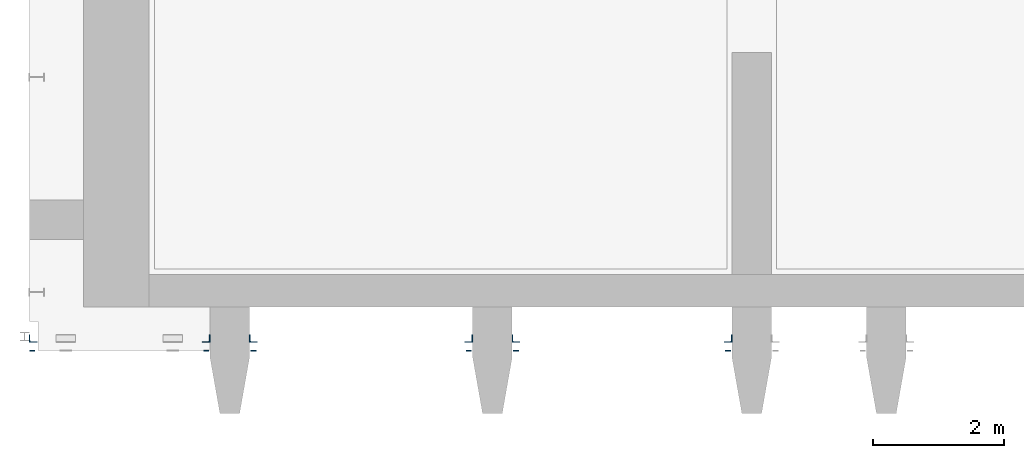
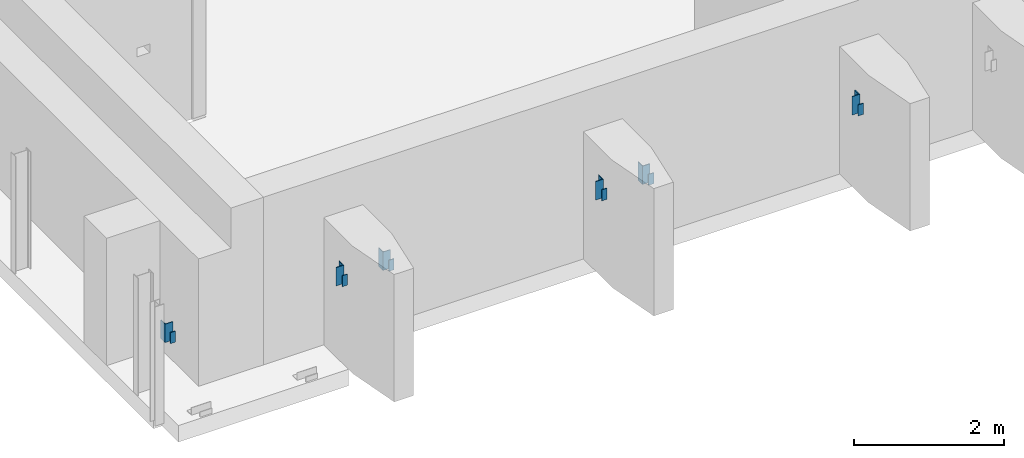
# One storey, part 3 of 22: 12 columns.
"""IFC2X3 building model written with IfcOpenShell, lengths in millimetres."""

from ifc_helpers import new_model, entity, si_unit, converted_unit, derived_unit, direction, frame, frame_2d, origin, place, context, subcontext, project, spatial, polyline, circle_curve, parameter, trimmed, segment, composite_curve, rectangle, outline, extrude, source, transform, mapped, material, type_object, type_shapes, element, save


model = new_model("IFC2X3")

# Units and contexts
model_context = context("Model", 3, precision=0.01, world=origin(), true_north=direction((6.12303176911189e-17, 1.0)))
body_context = subcontext(model_context, "Body", "Model", "MODEL_VIEW")
ifc_project = project(units=[si_unit("LENGTHUNIT", "METRE", prefix="MILLI"), si_unit("AREAUNIT", "SQUARE_METRE"), si_unit("VOLUMEUNIT", "CUBIC_METRE"), converted_unit("PLANEANGLEUNIT", "DEGREE", entity("IfcRatioMeasure", 0.0174532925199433), si_unit("PLANEANGLEUNIT", "RADIAN"), dimensions=[0, 0, 0, 0, 0, 0, 0]), si_unit("MASSUNIT", "GRAM", prefix="KILO"), derived_unit("MASSDENSITYUNIT", [(si_unit("MASSUNIT", "GRAM", prefix="KILO"), 1), (si_unit("LENGTHUNIT", "METRE"), -3)]), si_unit("TIMEUNIT", "SECOND"), si_unit("FREQUENCYUNIT", "HERTZ"), si_unit("THERMODYNAMICTEMPERATUREUNIT", "DEGREE_CELSIUS"), derived_unit("THERMALTRANSMITTANCEUNIT", [(si_unit("MASSUNIT", "GRAM", prefix="KILO"), 1), (si_unit("THERMODYNAMICTEMPERATUREUNIT", "KELVIN"), -1), (si_unit("TIMEUNIT", "SECOND"), -3)]), derived_unit("VOLUMETRICFLOWRATEUNIT", [(si_unit("LENGTHUNIT", "METRE"), 3), (si_unit("TIMEUNIT", "SECOND"), -1)]), si_unit("ELECTRICCURRENTUNIT", "AMPERE"), si_unit("ELECTRICVOLTAGEUNIT", "VOLT"), si_unit("POWERUNIT", "WATT"), si_unit("FORCEUNIT", "NEWTON", prefix="KILO"), si_unit("ILLUMINANCEUNIT", "LUX"), si_unit("LUMINOUSFLUXUNIT", "LUMEN"), si_unit("LUMINOUSINTENSITYUNIT", "CANDELA"), derived_unit("USERDEFINED", [(si_unit("MASSUNIT", "GRAM", prefix="KILO"), -1), (si_unit("LENGTHUNIT", "METRE"), -2), (si_unit("TIMEUNIT", "SECOND"), 3), (si_unit("LUMINOUSFLUXUNIT", "LUMEN"), 1)]), derived_unit("LINEARVELOCITYUNIT", [(si_unit("LENGTHUNIT", "METRE"), 1), (si_unit("TIMEUNIT", "SECOND"), -1)]), si_unit("PRESSUREUNIT", "PASCAL"), derived_unit("USERDEFINED", [(si_unit("LENGTHUNIT", "METRE"), -2), (si_unit("MASSUNIT", "GRAM", prefix="KILO"), 1), (si_unit("TIMEUNIT", "SECOND"), -2)])], contexts=[model_context])

# Site, building, storey
site_placement = place(None, origin())
site = spatial("IfcSite", under=ifc_project, at=site_placement, Name="Default", CompositionType="ELEMENT")
building_placement = place(site_placement, origin())
building = spatial("IfcBuilding", under=site, at=building_placement, Name="niet gebruiken", CompositionType="ELEMENT")
storey_placement = place(building_placement, frame((0.0, 0.0, 15000.0)))
storey = spatial("IfcBuildingStorey", under=building, at=storey_placement, Name="04 vierde verdieping", CompositionType="ELEMENT", Elevation=15000.0)

# Columns
ifc_material = material(Name="NLRS_h2_staal")
column_type_1 = type_object("IfcColumnType", Name="kolomgelijzijdig hoekprofiel LEQU_120x120x12_!", PredefinedType="COLUMN", material=ifc_material)
shared_shape_1 = source(origin(), body_context, "Body", "SweptSolid", [
    extrude(outline(composite_curve([segment(polyline([(-74.6666666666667, -45.3333333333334), (45.3333333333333, -45.3333333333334)]), True, "CONTINUOUS"), segment(polyline([(45.3333333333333, -45.3333333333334), (45.3333333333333, 74.6666666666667)]), True, "CONTINUOUS"), segment(polyline([(45.3333333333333, 74.6666666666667), (41.3333333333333, 74.6666666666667)]), True, "CONTINUOUS"), segment(trimmed(circle_curve(frame_2d((41.3333333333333, 66.6666666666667), x_axis=(0.0, 1.0)), 8.0), [parameter(0.0)], [parameter(90.0)], True, "PARAMETER"), True, "CONTINUOUS"), segment(polyline([(33.3333333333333, 66.6666666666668), (33.3333333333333, -17.3333333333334)]), True, "CONTINUOUS"), segment(trimmed(circle_curve(frame_2d((17.3333333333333, -17.3333333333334), x_axis=(1.0, 0.0)), 16.0), [parameter(270.0)], [parameter(0.0)], True, "PARAMETER"), False, "CONTINUOUS"), segment(polyline([(17.3333333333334, -33.3333333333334), (-66.6666666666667, -33.3333333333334)]), True, "CONTINUOUS"), segment(trimmed(circle_curve(frame_2d((-66.6666666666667, -41.3333333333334), x_axis=(0.0, 1.0)), 7.99999999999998), [parameter(0.0)], [parameter(90.0000000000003)], True, "PARAMETER"), True, "CONTINUOUS"), segment(polyline([(-74.6666666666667, -41.3333333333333), (-74.6666666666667, -45.3333333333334)]), True, "CONTINUOUS")], self_intersect=False)), frame((32.8333333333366, 32.8333333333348, 16235.0), z_axis=(0.0, 0.0, 1.0), x_axis=(0.0, -1.0, 0.0)), (0.0, 0.0, 1.0), 300.00000000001),
])
type_shapes(column_type_1, [shared_shape_1])
for number, where, z_axis, x_axis in (
    (1, (131437.5, 1246.49999999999, -15000.0), (0.0, 0.0, 1.0), (0.0, 1.0, 0.0)),
    (2, (135387.5, 1246.5, -15000.0), (0.0, 0.0, 1.0), (0.0, 1.0, 0.0)),
    (3, (127437.5, 1246.50000000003, -15000.0), (0.0, 0.0, 1.0), (0.0, 1.0, 0.0)),
):
    element("IfcColumn", number, at=place(storey_placement, frame(where, z_axis=z_axis, x_axis=x_axis)), inside=storey, type_object=column_type_1, material=ifc_material, Name="NLRS_28.11_SCO_TLB_stalen kolom hoekprofiel gelijkzijdig_gen:kolomgelijzijdig hoekprofiel LEQU_120x120x12_!", ObjectType="kolomgelijzijdig hoekprofiel LEQU_120x120x12_!", context=body_context, shape_type="MappedRepresentation", body=[
        mapped(shared_shape_1, transform((0.0, 0.0, 0.0), scale=1.0)),
    ])
column_type_2 = type_object("IfcColumnType", Name="kolom stripstaal RECT_80x12", PredefinedType="COLUMN", material=ifc_material)
shared_shape_2 = source(origin(), body_context, "Body", "SweptSolid", [
    extrude(rectangle(XDim=12.0, YDim=79.9999999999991, at=frame_2d((0.0, -8.66506866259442e-12), x_axis=(1.0, 0.0))), frame((131390.0, 1108.0, 16295.0), z_axis=(0.0, 0.0, 1.0), x_axis=(0.0, -1.0, 0.0)), (0.0, 0.0, 1.0), 180.000000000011),
])
type_shapes(column_type_2, [shared_shape_2])
column_1_placement = place(storey_placement, frame((0.0, 0.0, -15000.0)))
element("IfcColumn", 4, at=column_1_placement, inside=storey, type_object=column_type_2, material=ifc_material, Name="NLRS_28.11_SCO_TLB_stalen kolom stripstaal_gen:kolom stripstaal RECT_80x12", ObjectType="kolom stripstaal RECT_80x12", context=body_context, shape_type="MappedRepresentation", body=[
    mapped(shared_shape_2, transform((0.0, 0.0, 0.0), scale=1.0)),
])
column_type_3 = type_object("IfcColumnType", Name="kolomgelijzijdig hoekprofiel LEQU_120x120x12_!", PredefinedType="COLUMN", material=ifc_material)
shared_shape_3 = source(origin(), body_context, "Body", "SweptSolid", [
    extrude(outline(composite_curve([segment(polyline([(-45.3333333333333, -45.3333333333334), (74.6666666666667, -45.3333333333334)]), True, "CONTINUOUS"), segment(polyline([(74.6666666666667, -45.3333333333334), (74.6666666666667, -41.3333333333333)]), True, "CONTINUOUS"), segment(trimmed(circle_curve(frame_2d((66.6666666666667, -41.3333333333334), x_axis=(1.0, 0.0)), 7.99999999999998), [parameter(0.0)], [parameter(90.0000000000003)], True, "PARAMETER"), True, "CONTINUOUS"), segment(polyline([(66.6666666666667, -33.3333333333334), (-17.3333333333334, -33.3333333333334)]), True, "CONTINUOUS"), segment(trimmed(circle_curve(frame_2d((-17.3333333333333, -17.3333333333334), x_axis=(0.0, -1.0)), 16.0), [parameter(270.0)], [parameter(0.0)], True, "PARAMETER"), False, "CONTINUOUS"), segment(polyline([(-33.3333333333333, -17.3333333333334), (-33.3333333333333, 66.6666666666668)]), True, "CONTINUOUS"), segment(trimmed(circle_curve(frame_2d((-41.3333333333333, 66.6666666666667), x_axis=(1.0, 0.0)), 8.0), [parameter(0.0)], [parameter(90.0)], True, "PARAMETER"), True, "CONTINUOUS"), segment(polyline([(-41.3333333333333, 74.6666666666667), (-45.3333333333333, 74.6666666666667)]), True, "CONTINUOUS"), segment(polyline([(-45.3333333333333, 74.6666666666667), (-45.3333333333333, -45.3333333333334)]), True, "CONTINUOUS")], self_intersect=False)), frame((32.8333333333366, -32.8333333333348, 16235.0), z_axis=(0.0, 0.0, 1.0), x_axis=(0.0, -1.0, 0.0)), (0.0, 0.0, 1.0), 300.00000000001),
])
type_shapes(column_type_3, [shared_shape_3])
for number, where, z_axis, x_axis in (
    (5, (128062.500000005, 1246.50000000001, -15000.0), (0.0, 0.0, 1.0), (0.0, 1.0, 0.0)),
    (6, (132062.500000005, 1246.5, -15000.0), (0.0, 0.0, 1.0), (0.0, 1.0, 0.0)),
    (7, (124707.5, 1246.50000000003, -15000.0), (0.0, 0.0, 1.0), (0.0, 1.0, 0.0)),
):
    element("IfcColumn", number, at=place(storey_placement, frame(where, z_axis=z_axis, x_axis=x_axis)), inside=storey, type_object=column_type_3, material=ifc_material, Name="NLRS_28.11_SCO_TLB_stalen kolom hoekprofiel gelijkzijdig_gen:kolomgelijzijdig hoekprofiel LEQU_120x120x12_!", ObjectType="kolomgelijzijdig hoekprofiel LEQU_120x120x12_!", context=body_context, shape_type="MappedRepresentation", body=[
        mapped(shared_shape_3, transform((0.0, 0.0, 0.0), scale=1.0)),
    ])
column_type_4 = type_object("IfcColumnType", Name="kolom stripstaal RECT_80x12", PredefinedType="COLUMN", material=ifc_material)
shared_shape_4 = source(origin(), body_context, "Body", "SweptSolid", [
    extrude(rectangle(XDim=12.0, YDim=79.9999999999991, at=frame_2d((0.0, -8.66506866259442e-12), x_axis=(1.0, 0.0))), frame((128110.0, 1108.0, 16295.0), z_axis=(0.0, 0.0, 1.0), x_axis=(0.0, -1.0, 0.0)), (0.0, 0.0, 1.0), 180.000000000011),
])
type_shapes(column_type_4, [shared_shape_4])
column_2_placement = place(storey_placement, frame((0.0, 0.0, -15000.0)))
element("IfcColumn", 8, at=column_2_placement, inside=storey, type_object=column_type_4, material=ifc_material, Name="NLRS_28.11_SCO_TLB_stalen kolom stripstaal_gen:kolom stripstaal RECT_80x12", ObjectType="kolom stripstaal RECT_80x12", context=body_context, shape_type="MappedRepresentation", body=[
    mapped(shared_shape_4, transform((0.0, 0.0, 0.0), scale=1.0)),
])
column_type_5 = type_object("IfcColumnType", Name="kolom stripstaal RECT_80x12", PredefinedType="COLUMN", material=ifc_material)
shared_shape_5 = source(origin(), body_context, "Body", "SweptSolid", [
    extrude(rectangle(XDim=12.0, YDim=79.9999999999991, at=frame_2d((0.0, -8.66506866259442e-12), x_axis=(1.0, 0.0))), frame((132110.0, 1108.0, 16295.0), z_axis=(0.0, 0.0, 1.0), x_axis=(0.0, -1.0, 0.0)), (0.0, 0.0, 1.0), 180.000000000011),
])
type_shapes(column_type_5, [shared_shape_5])
column_3_placement = place(storey_placement, frame((0.0, 0.0, -15000.0)))
element("IfcColumn", 9, at=column_3_placement, inside=storey, type_object=column_type_5, material=ifc_material, Name="NLRS_28.11_SCO_TLB_stalen kolom stripstaal_gen:kolom stripstaal RECT_80x12", ObjectType="kolom stripstaal RECT_80x12", context=body_context, shape_type="MappedRepresentation", body=[
    mapped(shared_shape_5, transform((0.0, 0.0, 0.0), scale=1.0)),
])
column_type_6 = type_object("IfcColumnType", Name="kolom stripstaal RECT_80x12", PredefinedType="COLUMN", material=ifc_material)
shared_shape_6 = source(origin(), body_context, "Body", "SweptSolid", [
    extrude(rectangle(XDim=12.0, YDim=79.9999999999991, at=frame_2d((0.0, 8.66506866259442e-12), x_axis=(1.0, 0.0))), frame((135340.0, 1108.0, 16295.0), z_axis=(0.0, 0.0, 1.0), x_axis=(0.0, -1.0, 0.0)), (0.0, 0.0, 1.0), 180.000000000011),
])
type_shapes(column_type_6, [shared_shape_6])
column_4_placement = place(storey_placement, frame((0.0, 0.0, -15000.0)))
element("IfcColumn", 10, at=column_4_placement, inside=storey, type_object=column_type_6, material=ifc_material, Name="NLRS_28.11_SCO_TLB_stalen kolom stripstaal_gen:kolom stripstaal RECT_80x12", ObjectType="kolom stripstaal RECT_80x12", context=body_context, shape_type="MappedRepresentation", body=[
    mapped(shared_shape_6, transform((0.0, 0.0, 0.0), scale=1.0)),
])
column_type_7 = type_object("IfcColumnType", Name="kolom stripstaal RECT_80x12", PredefinedType="COLUMN", material=ifc_material)
shared_shape_7 = source(origin(), body_context, "Body", "SweptSolid", [
    extrude(rectangle(XDim=12.0, YDim=79.9999999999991, at=frame_2d((0.0, -8.66506866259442e-12), x_axis=(1.0, 0.0))), frame((124740.0, 1108.0, 16295.0), z_axis=(0.0, 0.0, 1.0), x_axis=(0.0, -1.0, 0.0)), (0.0, 0.0, 1.0), 180.000000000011),
])
type_shapes(column_type_7, [shared_shape_7])
column_5_placement = place(storey_placement, frame((0.0, 0.0, -15000.0)))
element("IfcColumn", 11, at=column_5_placement, inside=storey, type_object=column_type_7, material=ifc_material, Name="NLRS_28.11_SCO_TLB_stalen kolom stripstaal_gen:kolom stripstaal RECT_80x12", ObjectType="kolom stripstaal RECT_80x12", context=body_context, shape_type="MappedRepresentation", body=[
    mapped(shared_shape_7, transform((0.0, 0.0, 0.0), scale=1.0)),
])
column_type_8 = type_object("IfcColumnType", Name="kolom stripstaal RECT_80x12", PredefinedType="COLUMN", material=ifc_material)
shared_shape_8 = source(origin(), body_context, "Body", "SweptSolid", [
    extrude(rectangle(XDim=12.0, YDim=79.9999999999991, at=frame_2d((0.0, -8.66506866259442e-12), x_axis=(1.0, 0.0))), frame((127390.0, 1108.0, 16295.0), z_axis=(0.0, 0.0, 1.0), x_axis=(0.0, -1.0, 0.0)), (0.0, 0.0, 1.0), 180.000000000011),
])
type_shapes(column_type_8, [shared_shape_8])
column_6_placement = place(storey_placement, frame((0.0, 0.0, -15000.0)))
element("IfcColumn", 12, at=column_6_placement, inside=storey, type_object=column_type_8, material=ifc_material, Name="NLRS_28.11_SCO_TLB_stalen kolom stripstaal_gen:kolom stripstaal RECT_80x12", ObjectType="kolom stripstaal RECT_80x12", context=body_context, shape_type="MappedRepresentation", body=[
    mapped(shared_shape_8, transform((0.0, 0.0, 0.0), scale=1.0)),
])

save(model, "model.ifc")
